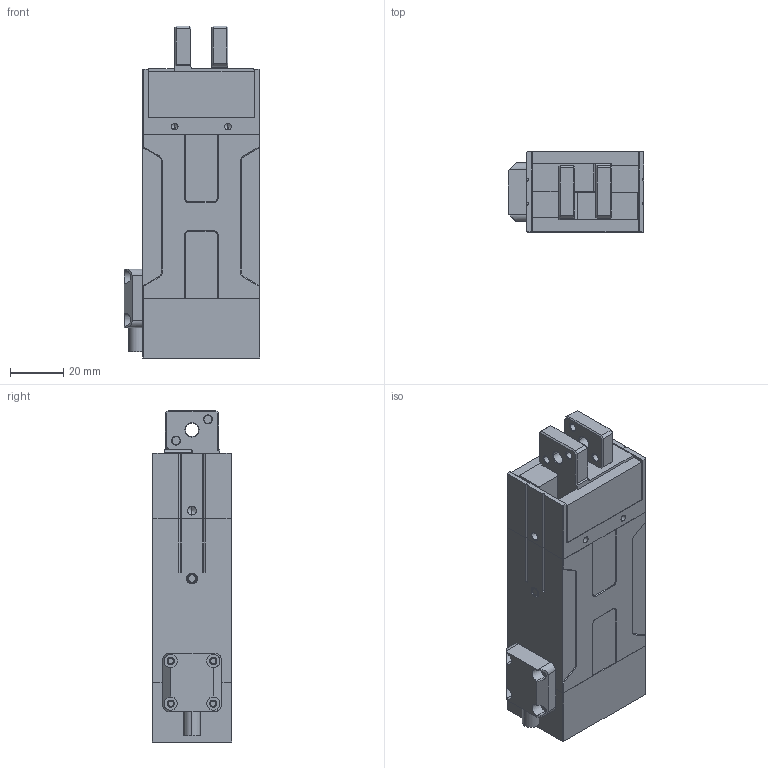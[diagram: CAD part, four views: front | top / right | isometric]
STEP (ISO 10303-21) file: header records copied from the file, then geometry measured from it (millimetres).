
FILE_DESCRIPTION (( 'STEP AP203' ), '1' );
FILE_NAME ('EFG-20P（外发3D）.STEP', '2023-03-02T03:46:55', ( '' ), ( '' ), 'SwSTEP 2.0', 'SolidWorks 2020', '' );
FILE_SCHEMA (( 'CONFIG_CONTROL_DESIGN' ));
Length unit declared in the file: millimetre
Products named in the file (3): EFG-20Pㄗ俋楷3Dㄘ; CRC1003-000; 翋极
Assembly tree (3 placements, depth 2):
  EFG-20Pㄗ俋楷3Dㄘ
    翋极
    CRC1003-000  x2
Bounding box: 51 x 30 x 124.7 mm (x, y, z)
Volume: 143995.9 mm3; surface area: 38442.7 mm2
Topology: 9 solids, 9 shells, 422 faces, 1061 edges, 672 vertices
Faces by surface type: plane 228, cylinder 120, cone 72, torus 2
Entity records: 11429 total; most frequent: CARTESIAN_POINT 2024, DIRECTION 1924, ORIENTED_EDGE 1852, EDGE_CURVE 926, AXIS2_PLACEMENT_3D 656, VECTOR 612, LINE 612, VERTEX_POINT 600
